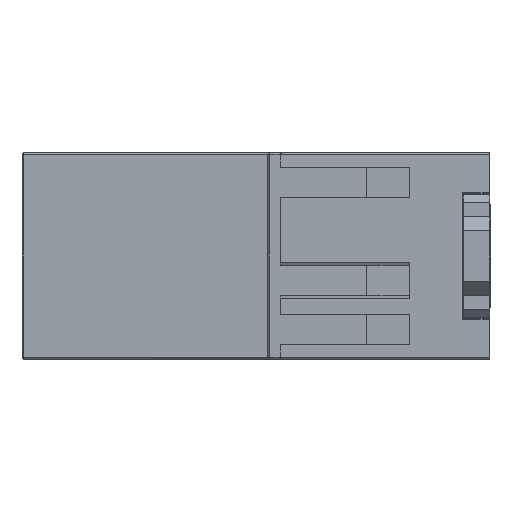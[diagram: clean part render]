
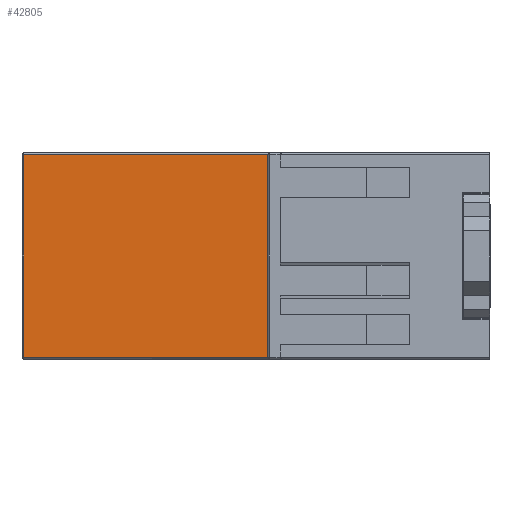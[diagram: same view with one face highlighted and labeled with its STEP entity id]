
A CAD part, left-side view. The second image highlights one B-rep face of the part: STEP entity #42805.
In plain terms, the highlighted planar face has unit normal (-1, 0, 0).
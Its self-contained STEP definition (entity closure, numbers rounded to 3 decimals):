
#254 = EDGE_CURVE ( 'NONE', #1129, #11403, #8374, .T. ) ;
#259 = CARTESIAN_POINT ( 'NONE',  ( -6.398, 26.868, 13.45 ) ) ;
#272 = VECTOR ( 'NONE', #753, 1000. ) ;
#705 = FACE_OUTER_BOUND ( 'NONE', #21303, .T. ) ;
#753 = DIRECTION ( 'NONE',  ( 0., 0., -1. ) ) ;
#956 = PLANE ( 'NONE',  #41492 ) ;
#1129 = VERTEX_POINT ( 'NONE', #36601 ) ;
#2439 = ORIENTED_EDGE ( 'NONE', *, *, #254, .F. ) ;
#2900 = LINE ( 'NONE', #3636, #19959 ) ;
#3636 = CARTESIAN_POINT ( 'NONE',  ( -6.398, -11.782, -13.2 ) ) ;
#3691 = EDGE_CURVE ( 'NONE', #48823, #39614, #9845, .T. ) ;
#3877 = DIRECTION ( 'NONE',  ( 0., 1., 0. ) ) ;
#3894 = VERTEX_POINT ( 'NONE', #21469 ) ;
#5218 = AXIS2_PLACEMENT_3D ( 'NONE', #9447, #40364, #5585 ) ;
#5585 = DIRECTION ( 'NONE',  ( 0., 1., 0. ) ) ;
#6139 = EDGE_CURVE ( 'NONE', #37025, #35885, #6946, .T. ) ;
#6655 = ORIENTED_EDGE ( 'NONE', *, *, #6139, .T. ) ;
#6695 = VECTOR ( 'NONE', #40567, 1000. ) ;
#6720 = CARTESIAN_POINT ( 'NONE',  ( -6.398, -4.982, -10.7 ) ) ;
#6946 = CIRCLE ( 'NONE', #33062, 0.25 ) ;
#7148 = EDGE_CURVE ( 'NONE', #33875, #21943, #2900, .T. ) ;
#8374 = LINE ( 'NONE', #47451, #6695 ) ;
#8428 = ORIENTED_EDGE ( 'NONE', *, *, #3691, .T. ) ;
#8518 = ORIENTED_EDGE ( 'NONE', *, *, #10294, .F. ) ;
#8786 = CARTESIAN_POINT ( 'NONE',  ( -6.398, -4.982, -10.95 ) ) ;
#9447 = CARTESIAN_POINT ( 'NONE',  ( -6.398, -5.232, 10.7 ) ) ;
#9845 = LINE ( 'NONE', #25423, #21544 ) ;
#10134 = CARTESIAN_POINT ( 'NONE',  ( -6.398, -11.782, 13.2 ) ) ;
#10294 = EDGE_CURVE ( 'NONE', #3894, #21943, #45528, .T. ) ;
#10529 = DIRECTION ( 'NONE',  ( 0., 0., -1. ) ) ;
#11403 = VERTEX_POINT ( 'NONE', #33345 ) ;
#12052 = CARTESIAN_POINT ( 'NONE',  ( -6.398, -5.232, -10.7 ) ) ;
#13061 = EDGE_CURVE ( 'NONE', #1129, #48823, #44388, .T. ) ;
#13791 = ORIENTED_EDGE ( 'NONE', *, *, #7148, .T. ) ;
#13861 = CARTESIAN_POINT ( 'NONE',  ( -6.398, -11.782, -10.95 ) ) ;
#14590 = CARTESIAN_POINT ( 'NONE',  ( -6.398, -4.982, 10.7 ) ) ;
#14771 = ORIENTED_EDGE ( 'NONE', *, *, #26372, .T. ) ;
#16534 = CARTESIAN_POINT ( 'NONE',  ( -6.398, 27.118, 13.45 ) ) ;
#16809 = ORIENTED_EDGE ( 'NONE', *, *, #13061, .T. ) ;
#17259 = ORIENTED_EDGE ( 'NONE', *, *, #29783, .T. ) ;
#18015 = VECTOR ( 'NONE', #23754, 1000. ) ;
#19923 = LINE ( 'NONE', #259, #272 ) ;
#19959 = VECTOR ( 'NONE', #22299, 1000. ) ;
#20160 = VECTOR ( 'NONE', #27931, 1000. ) ;
#21303 = EDGE_LOOP ( 'NONE', ( #16809, #8428, #23225, #13791, #8518, #17259, #6655, #42231, #14771, #2439 ) ) ;
#21469 = CARTESIAN_POINT ( 'NONE',  ( -6.398, -11.782, -10.95 ) ) ;
#21544 = VECTOR ( 'NONE', #41013, 1000. ) ;
#21943 = VERTEX_POINT ( 'NONE', #41516 ) ;
#22299 = DIRECTION ( 'NONE',  ( 0., -1., 0. ) ) ;
#23225 = ORIENTED_EDGE ( 'NONE', *, *, #40347, .T. ) ;
#23754 = DIRECTION ( 'NONE',  ( 0., 0., -1. ) ) ;
#25423 = CARTESIAN_POINT ( 'NONE',  ( -6.398, 26.868, 13.2 ) ) ;
#25462 = DIRECTION ( 'NONE',  ( 0., 0., 1. ) ) ;
#26291 = VECTOR ( 'NONE', #10529, 1000. ) ;
#26372 = EDGE_CURVE ( 'NONE', #45237, #11403, #31331, .T. ) ;
#27931 = DIRECTION ( 'NONE',  ( 0., 1., 0. ) ) ;
#28542 = DIRECTION ( 'NONE',  ( 1., 0., 0. ) ) ;
#28712 = CARTESIAN_POINT ( 'NONE',  ( -6.398, 26.868, 13.2 ) ) ;
#29783 = EDGE_CURVE ( 'NONE', #3894, #37025, #48365, .T. ) ;
#31331 = CIRCLE ( 'NONE', #5218, 0.25 ) ;
#31925 = CARTESIAN_POINT ( 'NONE',  ( -6.398, -4.982, 13.45 ) ) ;
#32133 = DIRECTION ( 'NONE',  ( 0., 1., 0. ) ) ;
#33062 = AXIS2_PLACEMENT_3D ( 'NONE', #12052, #43206, #3877 ) ;
#33345 = CARTESIAN_POINT ( 'NONE',  ( -6.398, -5.232, 10.95 ) ) ;
#33875 = VERTEX_POINT ( 'NONE', #45864 ) ;
#35885 = VERTEX_POINT ( 'NONE', #6720 ) ;
#36012 = LINE ( 'NONE', #31925, #18015 ) ;
#36601 = CARTESIAN_POINT ( 'NONE',  ( -6.398, -11.782, 10.95 ) ) ;
#37025 = VERTEX_POINT ( 'NONE', #39166 ) ;
#39166 = CARTESIAN_POINT ( 'NONE',  ( -6.398, -5.232, -10.95 ) ) ;
#39614 = VERTEX_POINT ( 'NONE', #28712 ) ;
#39955 = VECTOR ( 'NONE', #25462, 1000. ) ;
#40347 = EDGE_CURVE ( 'NONE', #39614, #33875, #19923, .T. ) ;
#40364 = DIRECTION ( 'NONE',  ( 1., 0., 0. ) ) ;
#40567 = DIRECTION ( 'NONE',  ( 0., 1., 0. ) ) ;
#41013 = DIRECTION ( 'NONE',  ( 0., 1., 0. ) ) ;
#41492 = AXIS2_PLACEMENT_3D ( 'NONE', #16534, #28542, #32133 ) ;
#41516 = CARTESIAN_POINT ( 'NONE',  ( -6.398, -11.782, -13.2 ) ) ;
#42231 = ORIENTED_EDGE ( 'NONE', *, *, #45494, .F. ) ;
#42805 = ADVANCED_FACE ( 'NONE', ( #705 ), #956, .F. ) ;
#43206 = DIRECTION ( 'NONE',  ( 1., 0., 0. ) ) ;
#44388 = LINE ( 'NONE', #47963, #39955 ) ;
#45237 = VERTEX_POINT ( 'NONE', #14590 ) ;
#45494 = EDGE_CURVE ( 'NONE', #45237, #35885, #36012, .T. ) ;
#45528 = LINE ( 'NONE', #13861, #26291 ) ;
#45864 = CARTESIAN_POINT ( 'NONE',  ( -6.398, 26.868, -13.2 ) ) ;
#47451 = CARTESIAN_POINT ( 'NONE',  ( -6.398, -4.982, 10.95 ) ) ;
#47963 = CARTESIAN_POINT ( 'NONE',  ( -6.398, -11.782, 10.95 ) ) ;
#48365 = LINE ( 'NONE', #8786, #20160 ) ;
#48823 = VERTEX_POINT ( 'NONE', #10134 ) ;
